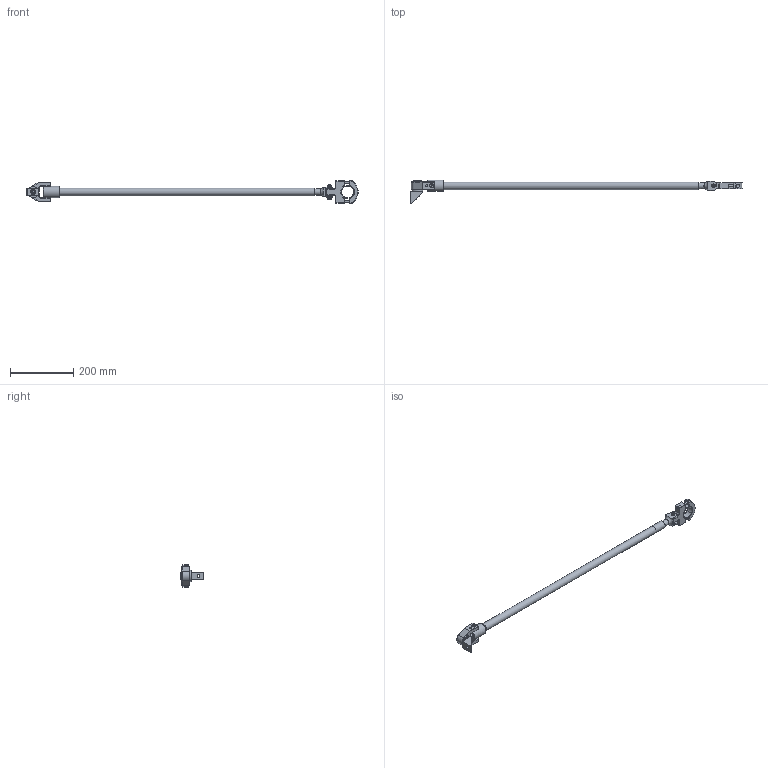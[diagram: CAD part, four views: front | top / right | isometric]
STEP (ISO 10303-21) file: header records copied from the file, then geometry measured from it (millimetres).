
FILE_DESCRIPTION( ( 'Unknown' ), '1' );
FILE_NAME( 'D:/dogabe/Industrie/Industrie 2005/05-14-2721 SCANROTOR/4-1200284_bras DMF 30_2500_3D/4-1200284_bras DMF 30_2500.stp', 'Unknown', ( 'Unknown' ), ( 'Unknown' ), 'PSStep 14.0', 'Unknown', ' ' );
FILE_SCHEMA( ( 'AUTOMOTIVE_DESIGN { 1 0 10303 214 1 1 1 1 }' ) );
Length unit declared in the file: millimetre
Products named in the file (32): Asm Pivot; Pivot S26; CHC M8x30; Asm Jonc 14 standart pour DMF30 LG2500; Jonc 14 pour DMF30 LG2500; Chape pince pour DMF30; Tube 14,2x16-oa1; 08 Z; H M06 Nyl; CHC Epaulé M6-30; Goupille élastique; 06 Z; Asm Pince pour DMF30; Placement; CHC M6x45 fileté sous tete; CHC M6x45 fileté sous tete-oa2; Collier; Pince pour DMF30; Asm Tube 19 standart pour DMF30 LG2500; Tube 16,2x19 pour DMF30 LG2500; Tube 14,2x16; Tube 19,2x20,8-oa0; Asm Tube 24 standart pour DMF30 LG2500; Fourreau DMF30; Tube 21x24 pour DMF30 LG2500; Tube 19,2x20,8; Chape équilibreur pour DMF30; CHC Epaulé M6-40; Chape de fixation DMF30; Spring retaining ring for 25 shaft; Assem1; Equerre
Assembly tree (31 placements, depth 3):
  Assem1
    Equerre
    Asm Tube 24 standart pour DMF30 LG2500
      Fourreau DMF30
      Tube 21x24 pour DMF30 LG2500
      Tube 19,2x20,8
    Asm Tube 19 standart pour DMF30 LG2500
      Tube 16,2x19 pour DMF30 LG2500
      Tube 14,2x16
      Tube 19,2x20,8-oa0
    Asm Jonc 14 standart pour DMF30 LG2500
      Jonc 14 pour DMF30 LG2500
      Chape pince pour DMF30
      Tube 14,2x16-oa1
      08 Z
      H M06 Nyl
      CHC Epaulé M6-30
      Goupille élastique
      06 Z
    Chape équilibreur pour DMF30
      CHC Epaulé M6-40
      Chape de fixation DMF30
      Spring retaining ring for 25 shaft
    Asm Pince pour DMF30
      Placement
      CHC M6x45 fileté sous tete
      CHC M6x45 fileté sous tete-oa2
      Collier
      Pince pour DMF30
    Asm Pivot
      Pivot S26
      CHC M8x30
Bounding box: 1050.79 x 75.25 x 70 mm (x, y, z)
Volume: 498735.4 mm3; surface area: 346702.2 mm2
Topology: 25 solids, 25 shells, 384 faces, 830 edges, 514 vertices
Faces by surface type: plane 259, cylinder 89, cone 31, torus 5
Full cylindrical faces by diameter (mm): 2 x2, 3.1 x3, 5 x4, 5.8 x2, 6 x6, 6.5 x2, 6.8 x2, 7 x2, 7.8 x1, 8 x10, 9 x2, 9.547 x1, 10 x2, 12 x1, 13 x3, 14 x3, 14.2 x2, 15 x2, 16 x3, 16.2 x1, 19 x1, 19.2 x2, 20 x1, 20.8 x2, 21 x1, 23.9 x1, 24 x1, 24.1 x1, 25 x3, 35 x1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
Entity records: 14033 total; most frequent: CARTESIAN_POINT 2502, DIRECTION 1705, ORIENTED_EDGE 1394, EDGE_CURVE 697, AXIS2_PLACEMENT_3D 624, EDGE_LOOP 562, VERTEX_POINT 475, FACE_OUTER_BOUND 460
